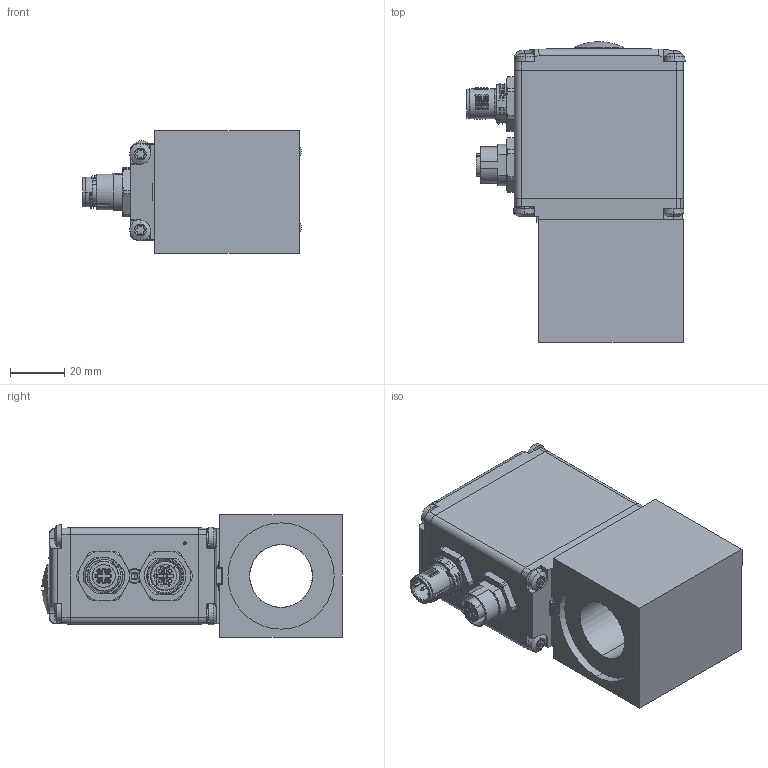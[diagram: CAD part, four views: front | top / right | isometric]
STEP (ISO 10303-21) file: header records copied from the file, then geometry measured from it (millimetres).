
FILE_DESCRIPTION (( 'STEP AP214' ), '1' );
FILE_NAME ('P1.STEP', '2017-04-19T09:36:28', ( '' ), ( '' ), 'SwSTEP 2.0', 'SolidWorks 2016', '' );
FILE_SCHEMA (( 'AUTOMOTIVE_DESIGN' ));
Length unit declared in the file: millimetre
Products named in the file (1): P1
Bounding box: 80.3 x 110.39 x 45 mm (x, y, z)
Volume: 144615.8 mm3; surface area: 62102.2 mm2
Topology: 18 solids, 36 shells, 3029 faces, 8195 edges, 5317 vertices
Faces by surface type: plane 1585, cylinder 943, torus 198, cone 186, bspline 88, sphere 29
Entity records: 133090 total; most frequent: CARTESIAN_POINT 24639, ORIENTED_EDGE 16318, DIRECTION 14956, EDGE_CURVE 8159, VERTEX_POINT 5317, LINE 5230, VECTOR 5230, AXIS2_PLACEMENT_3D 4863
